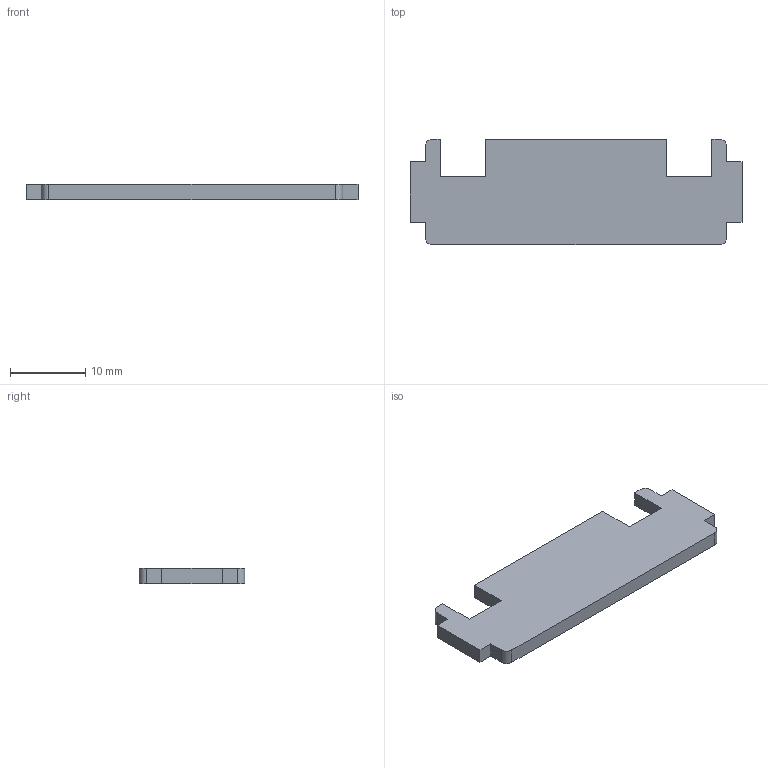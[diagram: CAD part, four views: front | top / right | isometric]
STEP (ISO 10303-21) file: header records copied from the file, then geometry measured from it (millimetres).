
FILE_DESCRIPTION(('Open CASCADE Model'),'2;1');
FILE_NAME('Open CASCADE Shape Model','2026-11-08T17:26:56',('Author'),( 'Open CASCADE'),'Open CASCADE STEP processor 7.8','Open CASCADE 7.8' ,'Unknown');
FILE_SCHEMA(('AUTOMOTIVE_DESIGN { 1 0 10303 214 1 1 1 1 }'));
Length unit declared in the file: millimetre
Products named in the file (1): Open CASCADE STEP translator 7.8 4
Bounding box: 44 x 14 x 2 mm (x, y, z)
Volume: 1062.3 mm3; surface area: 1330.8 mm2
Topology: 1 solids, 1 shells, 26 faces, 72 edges, 48 vertices
Faces by surface type: plane 22, cylinder 4
Entity records: 1742 total; most frequent: CARTESIAN_POINT 337, DIRECTION 242, LINE 166, VECTOR 166, ORIENTED_EDGE 144, PCURVE 144, DEFINITIONAL_REPRESENTATION 144, EDGE_CURVE 72
